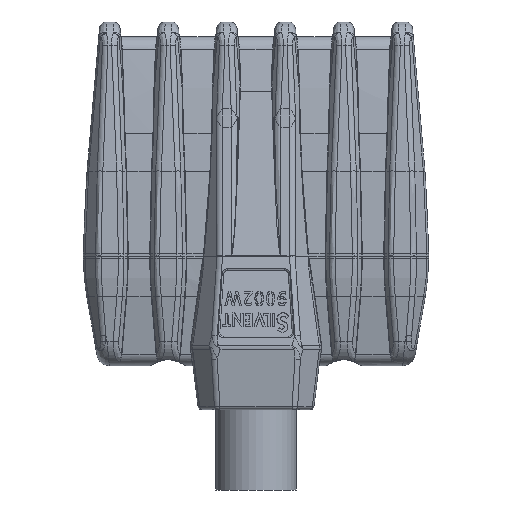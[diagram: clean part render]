
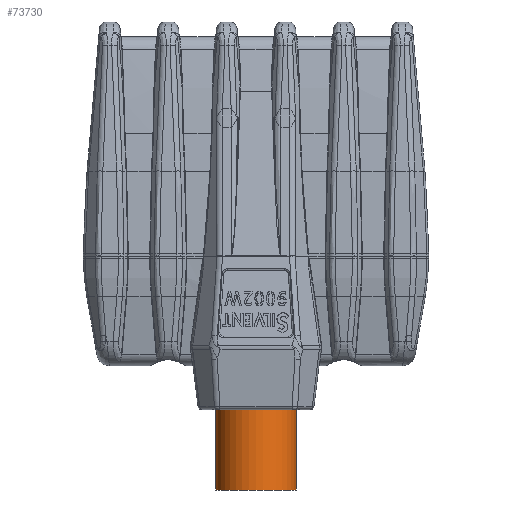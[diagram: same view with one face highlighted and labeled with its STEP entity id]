
A CAD part, front view. The second image highlights one B-rep face of the part: STEP entity #73730.
In plain terms, the highlighted cylindrical face has radius 5.508 mm (diameter 11.017 mm), a full revolution.
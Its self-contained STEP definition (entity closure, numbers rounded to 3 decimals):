
#4079 = DIRECTION ( 'NONE',  ( -1., 0., 0. ) ) ;
#4080 = DIRECTION ( 'NONE',  ( 0., 0., -1. ) ) ;
#4081 = AXIS2_PLACEMENT_3D ( 'NONE', #4096, #4080, #4079 ) ;
#4090 = CIRCLE ( 'NONE', #4081, 5.508 ) ;
#4096 = CARTESIAN_POINT ( 'NONE',  ( 37.5, 3.5, -51. ) ) ;
#31882 = CIRCLE ( 'NONE', #31889, 5.508 ) ;
#31889 = AXIS2_PLACEMENT_3D ( 'NONE', #31923, #31922, #31921 ) ;
#31921 = DIRECTION ( 'NONE',  ( -1., 0., 0. ) ) ;
#31922 = DIRECTION ( 'NONE',  ( 0., 0., -1. ) ) ;
#31923 = CARTESIAN_POINT ( 'NONE',  ( 37.5, 3.5, -62. ) ) ;
#31974 = AXIS2_PLACEMENT_3D ( 'NONE', #32025, #32044, #32043 ) ;
#31977 = FACE_OUTER_BOUND ( 'NONE', #73739, .T. ) ;
#31993 = FACE_OUTER_BOUND ( 'NONE', #73706, .T. ) ;
#32025 = CARTESIAN_POINT ( 'NONE',  ( 37.5, 3.5, -62. ) ) ;
#32029 = CYLINDRICAL_SURFACE ( 'NONE', #31974, 5.508 ) ;
#32043 = DIRECTION ( 'NONE',  ( 1., 0., 0. ) ) ;
#32044 = DIRECTION ( 'NONE',  ( 0., 0., 1. ) ) ;
#45905 = CARTESIAN_POINT ( 'NONE',  ( 31.992, 3.5, -51. ) ) ;
#45908 = VERTEX_POINT ( 'NONE', #45905 ) ;
#45970 = CARTESIAN_POINT ( 'NONE',  ( 31.992, 3.5, -62. ) ) ;
#45973 = VERTEX_POINT ( 'NONE', #45970 ) ;
#58838 = EDGE_CURVE ( 'NONE', #45908, #45908, #4090, .T. ) ;
#73665 = EDGE_CURVE ( 'NONE', #45973, #45973, #31882, .T. ) ;
#73706 = EDGE_LOOP ( 'NONE', ( #73707 ) ) ;
#73707 = ORIENTED_EDGE ( 'NONE', *, *, #58838, .T. ) ;
#73714 = ORIENTED_EDGE ( 'NONE', *, *, #73665, .F. ) ;
#73730 = ADVANCED_FACE ( 'NONE', ( #31977, #31993 ), #32029, .T. ) ;
#73739 = EDGE_LOOP ( 'NONE', ( #73714 ) ) ;
